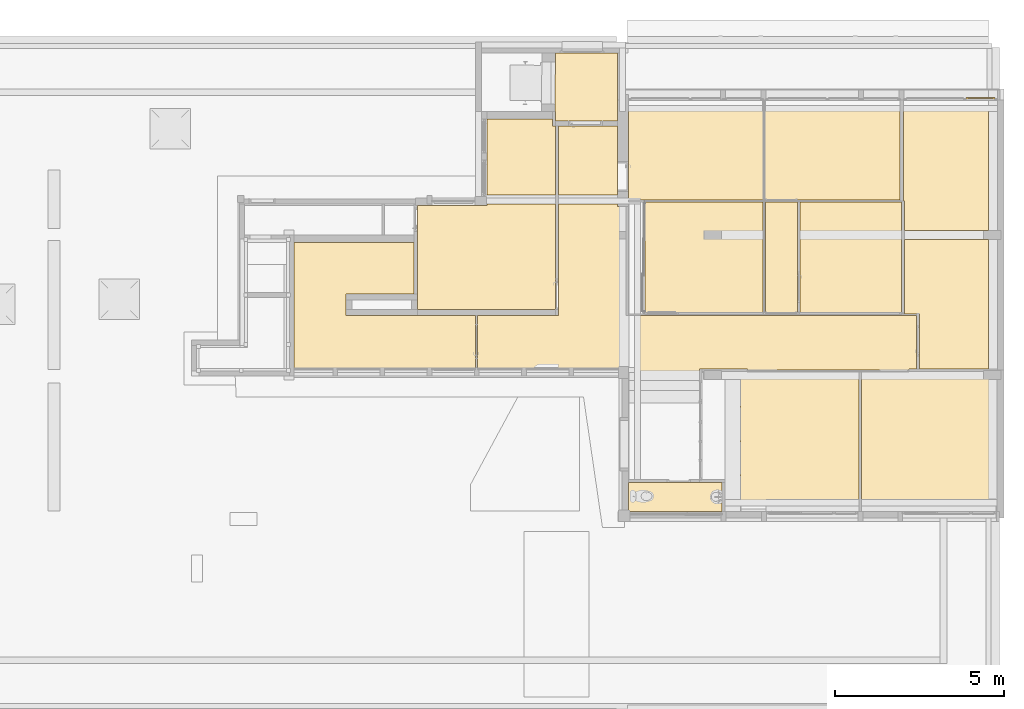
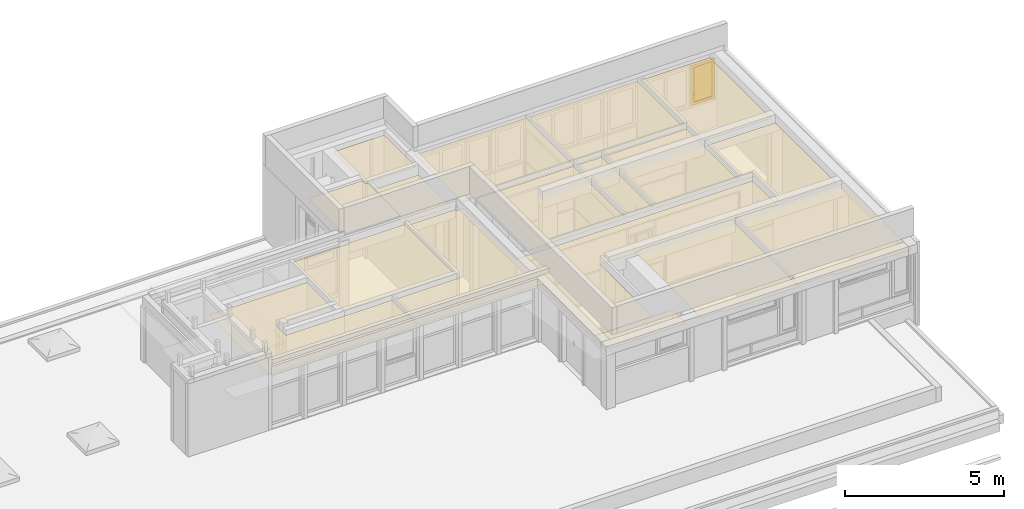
# One storey, part 46 of 49: 15 coverings, 1 window, 1 element without a shape of its own.
"""IFC4 building model written with IfcOpenShell, lengths in metres."""

from ifc_helpers import new_model, entity, si_unit, converted_unit, derived_unit, direction, frame, origin, place, context, subcontext, project, spatial, polygons, source, transform, mapped, material, material_list, layer, layer_set, constituent, constituent_set, type_object, type_shapes, element, aggregate, save


model = new_model("IFC4")

# Units and contexts
model_context = context("Model", 3, precision=1e-05, world=origin(), true_north=direction((6.12303176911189e-17, 1.0)))
body_context = subcontext(model_context, "Body", "Model", "MODEL_VIEW")
ifc_project = project(units=[si_unit("LENGTHUNIT", "METRE"), si_unit("AREAUNIT", "SQUARE_METRE"), si_unit("VOLUMEUNIT", "CUBIC_METRE"), converted_unit("PLANEANGLEUNIT", "DEGREE", entity("IfcRatioMeasure", 0.0174532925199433), si_unit("PLANEANGLEUNIT", "RADIAN"), dimensions=[0, 0, 0, 0, 0, 0, 0]), si_unit("MASSUNIT", "GRAM", prefix="KILO"), derived_unit("MASSDENSITYUNIT", [(si_unit("MASSUNIT", "GRAM", prefix="KILO"), 1), (si_unit("LENGTHUNIT", "METRE"), -3)]), derived_unit("MOMENTOFINERTIAUNIT", [(si_unit("LENGTHUNIT", "METRE"), 4)]), si_unit("TIMEUNIT", "SECOND"), si_unit("FREQUENCYUNIT", "HERTZ"), si_unit("THERMODYNAMICTEMPERATUREUNIT", "DEGREE_CELSIUS"), derived_unit("THERMALTRANSMITTANCEUNIT", [(si_unit("MASSUNIT", "GRAM", prefix="KILO"), 1), (si_unit("THERMODYNAMICTEMPERATUREUNIT", "KELVIN"), -1), (si_unit("TIMEUNIT", "SECOND"), -3)]), derived_unit("VOLUMETRICFLOWRATEUNIT", [(si_unit("LENGTHUNIT", "METRE"), 3), (si_unit("TIMEUNIT", "SECOND"), -1)]), si_unit("ELECTRICCURRENTUNIT", "AMPERE"), si_unit("ELECTRICVOLTAGEUNIT", "VOLT"), si_unit("POWERUNIT", "WATT"), si_unit("FORCEUNIT", "NEWTON", prefix="KILO"), si_unit("ILLUMINANCEUNIT", "LUX"), si_unit("LUMINOUSFLUXUNIT", "LUMEN"), si_unit("LUMINOUSINTENSITYUNIT", "CANDELA"), derived_unit("USERDEFINED", [(si_unit("MASSUNIT", "GRAM", prefix="KILO"), -1), (si_unit("LENGTHUNIT", "METRE"), -2), (si_unit("TIMEUNIT", "SECOND"), 3), (si_unit("LUMINOUSFLUXUNIT", "LUMEN"), 1)]), derived_unit("LINEARVELOCITYUNIT", [(si_unit("LENGTHUNIT", "METRE"), 1), (si_unit("TIMEUNIT", "SECOND"), -1)]), si_unit("PRESSUREUNIT", "PASCAL"), derived_unit("USERDEFINED", [(si_unit("LENGTHUNIT", "METRE"), -2), (si_unit("MASSUNIT", "GRAM", prefix="KILO"), 1), (si_unit("TIMEUNIT", "SECOND"), -2)]), derived_unit("LINEARFORCEUNIT", [(si_unit("MASSUNIT", "GRAM", prefix="KILO"), 1), (si_unit("LENGTHUNIT", "METRE"), 1), (si_unit("TIMEUNIT", "SECOND"), -2), (si_unit("LENGTHUNIT", "METRE"), -1)]), derived_unit("PLANARFORCEUNIT", [(si_unit("MASSUNIT", "GRAM", prefix="KILO"), 1), (si_unit("LENGTHUNIT", "METRE"), 1), (si_unit("TIMEUNIT", "SECOND"), -2), (si_unit("LENGTHUNIT", "METRE"), -2)])], contexts=[model_context])

# Site, building, storey
site_placement = place(None, origin())
site = spatial("IfcSite", under=ifc_project, at=site_placement, Name="Default", CompositionType="ELEMENT")
building_placement = place(site_placement, origin())
building = spatial("IfcBuilding", under=site, at=building_placement, Name="HOTEL CONSULAIRE BOULOGNE SUR MER", CompositionType="ELEMENT")
storey_placement = place(building_placement, frame((0.0, 0.0, 6.81974152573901)))
storey = spatial("IfcBuildingStorey", under=building, at=storey_placement, Name="Niveau 2", CompositionType="ELEMENT", Elevation=6.81974152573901)

# Curtain wall, window
curtain_wall_type = type_object("IfcCurtainWallType", Name="Mur-rideau:Simple panneau", PredefinedType="NOTDEFINED")
curtain_wall_placement = place(storey_placement, frame((0.0, 0.0, -6.81974152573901)))
curtain_wall = element("IfcCurtainWall", 1, at=curtain_wall_placement, inside=storey, type_object=curtain_wall_type, Name="Mur-rideau:Simple panneau", ObjectType="Mur-rideau:Simple panneau", PredefinedType="NOTDEFINED")
ifc_material_1 = material(Name="PVC - Blanc", Category="Plastique")
ifc_constituent_1 = constituent(ifc_material_1, Name="PVC - Blanc", Category="Matériaux")
ifc_material_2 = material(Name="Fenêtre - Vitrage", Category="Verre")
ifc_constituent_2 = constituent(ifc_material_2, Name="Fenêtre - Vitrage", Category="Matériaux")
ifc_constituent_set = constituent_set(constituents=[ifc_constituent_1, ifc_constituent_2], Name="MaterialConstituentSet")
ifc_material_list = material_list([ifc_material_1, ifc_material_1])
window_type = type_object("IfcWindowType", Name="MR 1 Vantail:MR 1 Vantail", PartitioningType="NOTDEFINED", PredefinedType="WINDOW", material=ifc_material_list)
shared_shape = source(origin(), body_context, "Body", "Tessellation", [
    polygons([(-0.360646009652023, -0.0492408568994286, 0.472033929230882), (-0.349353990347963, -0.0492408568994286, 0.472033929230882), (-0.347966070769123, -0.0492408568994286, 0.470646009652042), (-0.347966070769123, -0.0492408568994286, 0.459332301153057), (-0.349332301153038, -0.0492408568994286, 0.457966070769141), (-0.360667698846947, -0.0492408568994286, 0.457966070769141), (-0.362033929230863, -0.0492408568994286, 0.459332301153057), (-0.362033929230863, -0.0492408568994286, 0.470646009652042), (-0.362033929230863, -0.0615795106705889, 0.470646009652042), (-0.360646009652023, -0.0621544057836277, 0.472033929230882), (-0.362033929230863, -0.0568932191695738, 0.459332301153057), (-0.362033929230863, -0.0635731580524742, 0.452652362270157), (-0.362033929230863, -0.063573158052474, 0.370000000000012), (-0.362033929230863, -0.0748868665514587, 0.370000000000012), (-0.362033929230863, -0.0748868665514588, 0.457338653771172), (-0.360667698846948, -0.0563273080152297, 0.457966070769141), (-0.349332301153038, -0.0563273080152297, 0.457966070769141), (-0.347966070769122, -0.0568932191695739, 0.459332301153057), (-0.347966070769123, -0.0615795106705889, 0.470646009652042), (-0.347966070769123, -0.0748868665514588, 0.457338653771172), (-0.347966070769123, -0.0748868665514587, 0.370000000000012), (-0.347966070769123, -0.0635731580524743, 0.370000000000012), (-0.347966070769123, -0.0635731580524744, 0.452652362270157), (-0.349353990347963, -0.0621544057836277, 0.472033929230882), (-0.360646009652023, -0.0762747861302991, 0.457913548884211), (-0.360667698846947, -0.0622069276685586, 0.452086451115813), (-0.349332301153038, -0.0622069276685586, 0.452086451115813), (-0.349353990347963, -0.0762747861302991, 0.457913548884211), (-0.360646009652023, -0.076274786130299, 0.370000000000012), (-0.360667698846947, -0.0622069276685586, 0.370000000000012), (-0.349332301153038, -0.0622069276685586, 0.370000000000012), (-0.349353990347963, -0.076274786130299, 0.370000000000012)], [[[6, 7, 8, 1, 2, 3, 4, 5]], [[30, 26, 27, 31]], [[9, 10, 1, 8]], [[11, 12, 13, 14, 15, 9, 8, 7]], [[16, 11, 7, 6]], [[16, 6, 5, 17]], [[31, 22, 21, 32, 29, 14, 13, 30]], [[17, 5, 4, 18]], [[3, 19, 20, 21, 22, 23, 18, 4]], [[19, 3, 2, 24]], [[24, 2, 1, 10]], [[15, 25, 10, 9]], [[26, 12, 11, 16]], [[27, 26, 16, 17]], [[27, 17, 18, 23]], [[20, 19, 24, 28]], [[28, 24, 10, 25]], [[29, 25, 15, 14]], [[13, 12, 26, 30]], [[22, 31, 27, 23]], [[32, 21, 20, 28]], [[32, 28, 25, 29]]], closed=True),
    polygons([(-0.362000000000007, -0.0432408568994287, 0.490000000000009), (-0.347999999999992, -0.0432408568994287, 0.490000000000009), (-0.342999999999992, -0.0432408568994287, 0.48500000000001), (-0.342999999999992, -0.0432408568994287, 0.414999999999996), (-0.347999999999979, -0.0432408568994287, 0.410000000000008), (-0.362000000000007, -0.0432408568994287, 0.410000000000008), (-0.366999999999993, -0.0432408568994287, 0.414999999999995), (-0.366999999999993, -0.0432408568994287, 0.48500000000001), (-0.362000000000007, -0.0492408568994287, 0.490000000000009), (-0.366999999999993, -0.0492408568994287, 0.48500000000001), (-0.366999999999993, -0.0492408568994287, 0.414999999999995), (-0.362000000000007, -0.0492408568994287, 0.410000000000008), (-0.347999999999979, -0.0492408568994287, 0.410000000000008), (-0.342999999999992, -0.0492408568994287, 0.414999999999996), (-0.342999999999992, -0.0492408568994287, 0.48500000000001), (-0.347999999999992, -0.0492408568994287, 0.490000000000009)], [[[2, 3, 4, 5, 6, 7, 8, 1]], [[13, 14, 15, 16, 9, 10, 11, 12]], [[9, 1, 8, 10]], [[10, 8, 7, 11]], [[11, 7, 6, 12]], [[12, 6, 5, 13]], [[13, 5, 4, 14]], [[15, 14, 4, 3]], [[15, 3, 2, 16]], [[16, 2, 1, 9]]], closed=True),
    polygons([(0.329999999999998, -0.019240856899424, 1.43628724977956), (-0.329999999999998, -0.0192408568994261, 1.43628724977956), (-0.329999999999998, -0.0192408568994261, 0.0999999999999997), (0.329999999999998, -0.019240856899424, 0.0999999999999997), (0.329999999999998, -0.00724085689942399, 1.43628724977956), (0.329999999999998, -0.00724085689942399, 0.0999999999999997), (-0.329999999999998, -0.00724085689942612, 0.0999999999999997), (-0.329999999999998, -0.00724085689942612, 1.43628724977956)], [[[4, 1, 2, 3]], [[7, 8, 5, 6]], [[2, 1, 5, 8]], [[3, 2, 8, 7]], [[4, 3, 7, 6]], [[1, 4, 6, 5]]], closed=True),
    polygons([(-0.379999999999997, 0.0167591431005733, 1.48628724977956), (-0.379999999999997, -0.043240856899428, 1.48628724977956), (0.379999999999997, -0.043240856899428, 1.48628724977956), (0.379999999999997, 0.0167591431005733, 1.48628724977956), (-0.329999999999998, -0.043240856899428, 1.43628724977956), (-0.329999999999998, 0.0167591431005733, 1.43628724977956), (0.329999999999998, 0.0167591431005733, 1.43628724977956), (0.329999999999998, -0.043240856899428, 1.43628724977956), (0.379999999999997, -0.043240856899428, 0.0500000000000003), (0.379999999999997, 0.0167591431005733, 0.0500000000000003), (0.329999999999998, 0.0167591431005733, 0.0999999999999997), (0.329999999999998, -0.043240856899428, 0.0999999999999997), (-0.379999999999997, -0.043240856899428, 0.0500000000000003), (-0.379999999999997, 0.0167591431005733, 0.0500000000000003), (-0.329999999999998, 0.0167591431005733, 0.0999999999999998), (-0.329999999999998, -0.043240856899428, 0.0999999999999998)], [[[1, 2, 3, 4]], [[12, 11, 15, 16]], [[5, 6, 7, 8]], [[10, 9, 13, 14]], [[4, 3, 9, 10]], [[16, 15, 6, 5]], [[8, 7, 11, 12]], [[14, 13, 2, 1]], [[9, 3, 2, 13], [16, 5, 8, 12]], [[14, 1, 4, 10], [11, 7, 6, 15]]], closed=True),
    polygons([(-0.369999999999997, 0.016759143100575, 1.47628724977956), (-0.369999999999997, 0.0267591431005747, 1.47628724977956), (0.369999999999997, 0.0267591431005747, 1.47628724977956), (0.369999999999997, 0.016759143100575, 1.47628724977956), (-0.379999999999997, -0.0432408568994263, 1.48628724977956), (-0.379999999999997, 0.016759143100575, 1.48628724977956), (0.379999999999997, 0.016759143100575, 1.48628724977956), (0.379999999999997, -0.0432408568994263, 1.48628724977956), (-0.429999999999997, 0.0267591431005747, 1.53628724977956), (-0.429999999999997, -0.0432408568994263, 1.53628724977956), (0.429999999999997, -0.0432408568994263, 1.53628724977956), (0.429999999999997, 0.0267591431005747, 1.53628724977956), (0.369999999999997, 0.0267591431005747, 0.0600000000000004), (0.369999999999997, 0.016759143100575, 0.0600000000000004), (0.379999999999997, 0.016759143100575, 0.0500000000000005), (0.379999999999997, -0.0432408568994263, 0.0500000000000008), (0.429999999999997, -0.0432408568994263, 5.41433564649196e-16), (0.429999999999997, 0.0267591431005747, 5.41433564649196e-16), (-0.369999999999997, 0.0267591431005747, 0.0600000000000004), (-0.369999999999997, 0.016759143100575, 0.0600000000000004), (-0.379999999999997, 0.016759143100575, 0.0500000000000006), (-0.379999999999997, -0.0432408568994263, 0.0500000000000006), (-0.429999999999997, -0.0432408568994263, 5.41433564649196e-16), (-0.429999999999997, 0.0267591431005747, 5.41433564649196e-16)], [[[1, 2, 3, 4]], [[5, 6, 7, 8]], [[18, 17, 23, 24]], [[9, 10, 11, 12]], [[14, 13, 19, 20]], [[16, 15, 21, 22]], [[4, 3, 13, 14]], [[8, 7, 15, 16]], [[24, 23, 10, 9]], [[12, 11, 17, 18]], [[20, 19, 2, 1]], [[22, 21, 6, 5]], [[24, 9, 12, 18], [13, 3, 2, 19]], [[15, 7, 6, 21], [20, 1, 4, 14]], [[17, 11, 10, 23], [22, 5, 8, 16]]], closed=True),
])
type_shapes(window_type, [shared_shape])
window_placement = place(curtain_wall_placement, frame((22.0979359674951, -11.5914237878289, 7.92545427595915)))
window = element("IfcWindow", 2, at=window_placement, type_object=window_type, material=ifc_constituent_set, Name="MR 1 Vantail:MR 1 Vantail", ObjectType="MR 1 Vantail:MR 1 Vantail", OverallHeight=1.53628724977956, OverallWidth=0.859999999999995, PartitioningType="NOTDEFINED", PredefinedType="WINDOW", context=body_context, shape_type="MappedRepresentation", body=[
    mapped(shared_shape, transform((0.0, 0.0, 0.0), scale=1.0)),
])
aggregate(curtain_wall, [window])

# Coverings
ifc_material_3 = material(Name="Faux-plafond - Trame 600 x 600", Category="Divers")
ifc_layer = layer(ifc_material_3, 0.0, Name="Faux-plafond - Trame 600 x 600", Category="Divers")
ifc_layer_set = layer_set([ifc_layer], Name="Plafond de base:Plafond 600 mm x 1200 mm")
covering_type_1 = type_object("IfcCoveringType", Name="Plafond de base:Plafond 600 mm x 1200 mm", PredefinedType="CEILING")
covering_1_placement = place(storey_placement, frame((15.696075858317, -14.6024237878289, 2.7214)))
element("IfcCovering", 3, at=covering_1_placement, inside=storey, type_object=covering_type_1, material=ifc_layer_set, Name="Plafond de base:Plafond 600 mm x 1200 mm", ObjectType="Plafond de base:Plafond 600 mm x 1200 mm", PredefinedType="CEILING", context=body_context, shape_type="Tessellation", body=[
    polygons([(0.0, 3.01100000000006, 0.0), (0.0, 2.38230768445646e-14, 0.0), (4.02674565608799, 0.0, 0.0), (4.026745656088, 3.01100000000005, 0.0)], [[[1, 2, 3, 4]]], closed=True),
])
covering_type_2 = type_object("IfcCoveringType", Name="Plafond de base:Plafond 600 mm x 1200 mm", PredefinedType="CEILING")
covering_2_placement = place(storey_placement, frame((11.6709585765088, -14.6024237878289, 2.7128)))
element("IfcCovering", 4, at=covering_2_placement, inside=storey, type_object=covering_type_2, material=ifc_layer_set, Name="Plafond de base:Plafond 600 mm x 1200 mm", ObjectType="Plafond de base:Plafond 600 mm x 1200 mm", PredefinedType="CEILING", context=body_context, shape_type="Tessellation", body=[
    polygons([(2.16573425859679e-15, 0.0010000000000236, 0.0), (0.494117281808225, 0.0010000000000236, 0.0), (0.494117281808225, 2.16573425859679e-14, 0.0), (4.02511728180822, 0.0, 0.0), (4.02511728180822, 3.01100000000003, 0.0), (8.66293703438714e-15, 3.01100000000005, 0.0)], [[[2, 3, 4, 5, 6, 1]]], closed=True),
])
covering_type_3 = type_object("IfcCoveringType", Name="Plafond de base:Plafond 600 mm x 1200 mm", PredefinedType="CEILING")
covering_3_placement = place(storey_placement, frame((12.1554672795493, -17.9313078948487, 2.7253)))
element("IfcCovering", 5, at=covering_3_placement, inside=storey, type_object=covering_type_3, material=ifc_layer_set, Name="Plafond de base:Plafond 600 mm x 1200 mm", ObjectType="Plafond de base:Plafond 600 mm x 1200 mm", PredefinedType="CEILING", context=body_context, shape_type="Tessellation", body=[
    polygons([(8.66293703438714e-15, 3.27988410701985, 0.0), (0.0, 2.16573425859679e-14, 0.0), (3.50560857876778, 0.0, 0.0), (3.50560857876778, 3.27988410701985, 0.0)], [[[1, 2, 3, 4]]], closed=True),
])
covering_type_4 = type_object("IfcCoveringType", Name="Plafond de base:Plafond 600 mm x 1200 mm", PredefinedType="CEILING")
covering_4_placement = place(storey_placement, frame((15.7270339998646, -17.9313078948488, 2.7253)))
element("IfcCovering", 6, at=covering_4_placement, inside=storey, type_object=covering_type_4, material=ifc_layer_set, Name="Plafond de base:Plafond 600 mm x 1200 mm", ObjectType="Plafond de base:Plafond 600 mm x 1200 mm", PredefinedType="CEILING", context=body_context, shape_type="Tessellation", body=[
    polygons([(4.33146851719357e-15, 3.27988410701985, 0.0), (0.0, 4.33146851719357e-15, 0.0), (0.950041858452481, 0.0, 0.0), (0.950041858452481, 3.27988410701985, 0.0)], [[[1, 2, 3, 4]]], closed=True),
])
covering_type_5 = type_object("IfcCoveringType", Name="Plafond de base:Plafond 600 mm x 1200 mm", PredefinedType="CEILING")
covering_5_placement = place(storey_placement, frame((16.747075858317, -17.9313078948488, 2.7253)))
element("IfcCovering", 7, at=covering_5_placement, inside=storey, type_object=covering_type_5, material=ifc_layer_set, Name="Plafond de base:Plafond 600 mm x 1200 mm", ObjectType="Plafond de base:Plafond 600 mm x 1200 mm", PredefinedType="CEILING", context=body_context, shape_type="Tessellation", body=[
    polygons([(2.16573425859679e-15, 3.27988410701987, 0.0), (2.16573425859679e-15, 1.94916083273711e-14, 0.0), (3.015, 2.16573425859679e-15, 0.0), (3.01500000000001, 3.27988410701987, 0.0)], [[[1, 2, 3, 4]]], closed=True),
])
covering_type_6 = type_object("IfcCoveringType", Name="Plafond de base:Plafond 600 mm x 1200 mm", PredefinedType="CEILING")
covering_6_placement = place(storey_placement, frame((9.59095857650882, -14.4530869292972, 2.5444)))
element("IfcCovering", 8, at=covering_6_placement, inside=storey, type_object=covering_type_6, material=ifc_layer_set, Name="Plafond de base:Plafond 600 mm x 1200 mm", ObjectType="Plafond de base:Plafond 600 mm x 1200 mm", PredefinedType="CEILING", context=body_context, shape_type="Tessellation", body=[
    polygons([(4.33146851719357e-15, 2.05130960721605, 0.0), (1.08286712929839e-15, 8.66293703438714e-15, 0.0), (1.75, 2.16573425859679e-15, 0.0), (1.75000000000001, 2.05130960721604, 0.0)], [[[1, 2, 3, 4]]], closed=True),
])
covering_type_7 = type_object("IfcCoveringType", Name="Plafond de base:Plafond 600 mm x 1200 mm", PredefinedType="CEILING")
covering_7_placement = place(storey_placement, frame((5.41198029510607, -17.8448875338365, 2.6985)))
element("IfcCovering", 9, at=covering_7_placement, inside=storey, type_object=covering_type_7, material=ifc_layer_set, Name="Plafond de base:Plafond 600 mm x 1200 mm", ObjectType="Plafond de base:Plafond 600 mm x 1200 mm", PredefinedType="CEILING", context=body_context, shape_type="Tessellation", body=[
    polygons([(4.08897828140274, 2.16573425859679e-15, 0.0), (4.08897828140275, 3.12180060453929, 0.0), (2.05699997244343, 3.12180060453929, 0.0), (2.05699997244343, 3.08197661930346, 0.0), (6.49720277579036e-15, 3.08197661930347, 0.0), (1.08286712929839e-15, 0.366000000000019, 0.0), (0.0, 1.73258740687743e-14, 0.0)], [[[6, 7, 1, 2, 3, 4, 5]]], closed=True),
])
covering_type_8 = type_object("IfcCoveringType", Name="Plafond de base:Plafond 600 mm x 1200 mm", PredefinedType="CEILING")
covering_8_placement = place(storey_placement, frame((9.48795765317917, -12.2517773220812, 2.7614299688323)))
element("IfcCovering", 10, at=covering_8_placement, inside=storey, type_object=covering_type_8, material=ifc_layer_set, Name="Plafond de base:Plafond 600 mm x 1200 mm", ObjectType="Plafond de base:Plafond 600 mm x 1200 mm", PredefinedType="CEILING", context=body_context, shape_type="Tessellation", body=[
    polygons([(0.0166526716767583, 2.01145315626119, 0.0), (-1.08286712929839e-15, 0.280986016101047, 0.0), (0.0130009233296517, 0.280986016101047, 0.0), (0.0130009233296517, 6.49720277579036e-15, 0.0), (1.85300092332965, 0.0, 0.0), (1.85300092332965, 0.775353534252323, 0.0), (1.85300092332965, 2.01145315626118, 0.0)], [[[3, 4, 5, 6, 7, 1, 2]]], closed=True),
])
covering_type_9 = type_object("IfcCoveringType", Name="Plafond de base:Plafond 600 mm x 1200 mm", PredefinedType="CEILING")
covering_9_placement = place(storey_placement, frame((19.812821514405, -19.603155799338, 2.7355)))
element("IfcCovering", 11, at=covering_9_placement, inside=storey, type_object=covering_type_9, material=ifc_layer_set, Name="Plafond de base:Plafond 600 mm x 1200 mm", ObjectType="Plafond de base:Plafond 600 mm x 1200 mm", PredefinedType="CEILING", context=body_context, shape_type="Tessellation", body=[
    polygons([(0.039254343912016, 3.83524599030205, 0.0), (0.0392543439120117, 1.62826826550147, 0.0), (0.475535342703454, 1.62826826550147, 0.0), (0.475535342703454, 4.33146851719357e-15, 0.0), (2.52581678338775, 0.0, 0.0), (2.52581678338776, 3.83524599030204, 0.0)], [[[3, 4, 5, 6, 1, 2]]], closed=True),
    polygons([(2.52581678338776, 4.10524599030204, 0.0), (2.52581678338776, 7.96673201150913, 0.0), (4.33146851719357e-15, 7.96673201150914, 0.0), (0.0, 4.97673201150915, 0.0), (0.039254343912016, 4.97673201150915, 0.0), (0.039254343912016, 4.10524599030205, 0.0)], [[[5, 6, 1, 2, 3, 4]]], closed=True),
])
covering_type_10 = type_object("IfcCoveringType", Name="Plafond de base:Plafond 600 mm x 1200 mm", PredefinedType="CEILING")
covering_10_placement = place(storey_placement, frame((7.2011767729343, -22.8895936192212, 2.6255)))
element("IfcCovering", 12, at=covering_10_placement, inside=storey, type_object=covering_type_10, material=ifc_layer_set, Name="Plafond de base:Plafond 600 mm x 1200 mm", ObjectType="Plafond de base:Plafond 600 mm x 1200 mm", PredefinedType="CEILING", context=body_context, shape_type="Tessellation", body=[
    polygons([(2.38978180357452, 8.16650668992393, 0.0), (2.38978180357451, 4.86470608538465, 0.0), (3.24860138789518e-15, 4.86470608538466, 0.0), (1.08286712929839e-15, 3.25767926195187, 0.0), (1.30303476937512, 3.25767926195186, 0.0), (2.70303476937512, 3.25767926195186, 0.0), (4.47076675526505, 3.25767926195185, 0.0), (4.47076675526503, 0.0, 0.0), (6.56787289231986, 0.0, 0.0), (6.56787289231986, 3.28643781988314, 0.0), (7.98863031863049, 3.28643781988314, 0.0), (7.98863031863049, 3.24643781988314, 0.0), (12.7751800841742, 3.24643781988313, 0.0), (12.7751800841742, 3.28643781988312, 0.0), (13.0071800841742, 3.28643781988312, 0.0), (13.0071800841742, 4.86470608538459, 0.0), (4.39978180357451, 4.86470608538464, 0.0), (4.39978180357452, 8.09870608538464, 0.0), (4.13978180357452, 8.09870608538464, 0.0), (4.13978180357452, 8.16650668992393, 0.0)], [[[3, 4, 5, 6, 7, 8, 9, 10, 11, 12, 13, 14, 15, 16, 17, 18, 19, 20, 1, 2]]], closed=True),
])
covering_type_11 = type_object("IfcCoveringType", Name="Plafond de base:Plafond 600 mm x 1200 mm", PredefinedType="CEILING")
covering_11_placement = place(storey_placement, frame((7.4689802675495, -14.4530869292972, 2.872)))
element("IfcCovering", 13, at=covering_11_placement, inside=storey, type_object=covering_type_11, material=ifc_layer_set, Name="Plafond de base:Plafond 600 mm x 1200 mm", ObjectType="Plafond de base:Plafond 600 mm x 1200 mm", PredefinedType="CEILING", context=body_context, shape_type="Tessellation", body=[
    polygons([(2.03197830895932, 2.05130960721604, 0.0), (1.95197830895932, 2.05130960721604, 0.0), (1.95197830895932, 2.25229562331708, 0.0), (4.33146851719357e-15, 2.25229562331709, 0.0), (0.0, 6.49720277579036e-15, 0.0), (2.03197830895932, 0.0, 0.0)], [[[4, 5, 6, 1, 2, 3]]], closed=True),
])
covering_type_12 = type_object("IfcCoveringType", Name="Plafond de base:Plafond 600 mm x 1200 mm", PredefinedType="CEILING")
covering_12_placement = place(storey_placement, frame((1.75747131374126, -19.6319143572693, 2.6281)))
element("IfcCovering", 14, at=covering_12_placement, inside=storey, type_object=covering_type_12, material=ifc_layer_set, Name="Plafond de base:Plafond 600 mm x 1200 mm", ObjectType="Plafond de base:Plafond 600 mm x 1200 mm", PredefinedType="CEILING", context=body_context, shape_type="Tessellation", body=[
    polygons([(1.14674022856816, 1.29944055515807e-14, 0.0), (2.54674022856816, 8.66293703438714e-15, 0.0), (3.94674022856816, 4.33146851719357e-15, 0.0), (5.37370545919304, 0.0, 0.0), (5.37370545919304, 1.60702682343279, 0.0), (3.56450898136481, 1.6070268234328, 0.0), (1.53998364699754, 1.60702682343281, 0.0), (1.53998364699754, 2.24302682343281, 0.0), (3.55450898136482, 2.2430268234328, 0.0), (3.55450898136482, 3.77667231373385, 0.0), (5.41433564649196e-15, 3.77667231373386, 0.0), (-2.70716782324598e-16, 1.73258740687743e-14, 0.0)], [[[1, 2, 3, 4, 5, 6, 7, 8, 9, 10, 11, 12]]], closed=True),
])
covering_type_13 = type_object("IfcCoveringType", Name="Plafond de base:Plafond 600 mm x 1200 mm", PredefinedType="CEILING")
covering_13_placement = place(storey_placement, frame((14.9899086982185, -23.8933633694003, 2.71976764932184)))
element("IfcCovering", 15, at=covering_13_placement, inside=storey, type_object=covering_type_13, material=ifc_layer_set, Name="Plafond de base:Plafond 600 mm x 1200 mm", ObjectType="Plafond de base:Plafond 600 mm x 1200 mm", PredefinedType="CEILING", context=body_context, shape_type="Tessellation", body=[
    polygons([(8.66293703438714e-15, 4.2102075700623, 0.0), (0.0, 0.0662626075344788, 0.0), (0.772132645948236, 0.0662626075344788, 0.0), (0.772132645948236, 8.66293703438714e-15, 0.0), (3.50777827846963, 0.0, 0.0), (3.50777827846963, 4.25020757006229, 0.0), (0.19989839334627, 4.25020757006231, 0.0), (0.19989839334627, 4.2102075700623, 0.0)], [[[2, 3, 4, 5, 6, 7, 8, 1]]], closed=True),
])
covering_type_14 = type_object("IfcCoveringType", Name="Plafond de base:Plafond 600 mm x 1200 mm", PredefinedType="CEILING")
covering_14_placement = place(storey_placement, frame((18.5676869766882, -23.8933633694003, 2.71976764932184)))
element("IfcCovering", 16, at=covering_14_placement, inside=storey, type_object=covering_type_14, material=ifc_layer_set, Name="Plafond de base:Plafond 600 mm x 1200 mm", ObjectType="Plafond de base:Plafond 600 mm x 1200 mm", PredefinedType="CEILING", context=body_context, shape_type="Tessellation", body=[
    polygons([(0.0, 4.25020757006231, 0.0), (0.0, 0.0662626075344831, 0.0), (1.2203543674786, 0.0662626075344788, 0.0), (1.2203543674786, 1.29944055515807e-14, 0.0), (4.02024899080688, 4.33146851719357e-15, 0.0), (4.02024899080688, 4.2102075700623, 0.0), (1.40866988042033, 4.2102075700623, 0.0), (1.40866988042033, 4.25020757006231, 0.0)], [[[1, 2, 3, 4, 5, 6, 7, 8]]], closed=True),
])
covering_type_15 = type_object("IfcCoveringType", Name="Plafond de base:Plafond 600 mm x 1200 mm", PredefinedType="CEILING")
covering_15_placement = place(storey_placement, frame((11.6719435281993, -23.8271007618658, 2.69603692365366)))
element("IfcCovering", 17, at=covering_15_placement, inside=storey, type_object=covering_type_15, material=ifc_layer_set, Name="Plafond de base:Plafond 600 mm x 1200 mm", ObjectType="Plafond de base:Plafond 600 mm x 1200 mm", PredefinedType="CEILING", context=body_context, shape_type="Tessellation", body=[
    polygons([(4.33146851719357e-15, 0.857507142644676, 0.0), (0.0, 4.33146851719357e-15, 0.0), (2.7699651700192, -4.33146851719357e-15, 0.0), (2.7699651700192, 0.857507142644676, 0.0), (2.13710613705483, 0.857507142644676, 0.0)], [[[1, 2, 3, 4, 5]]], closed=True),
])

save(model, "model.ifc")
